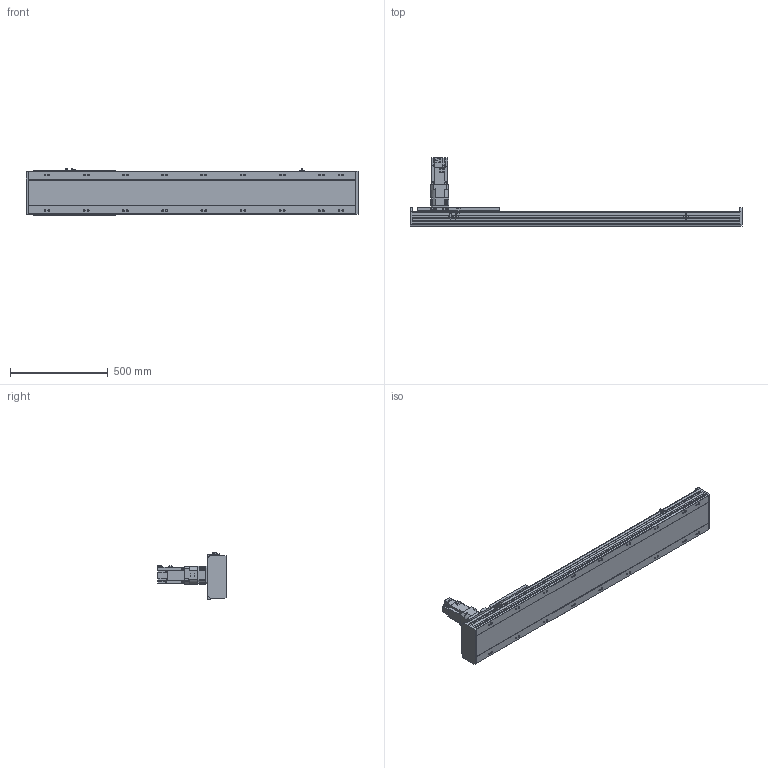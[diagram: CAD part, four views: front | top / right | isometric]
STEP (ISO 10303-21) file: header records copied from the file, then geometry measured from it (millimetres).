
FILE_DESCRIPTION(/* description */ ('STEP AP214'),/* implementation_level */ '2;1');
FILE_NAME(/* name */ 'SHS22A-L13-S1200-BC-T75-C1-N(0)',/* time_stamp */ '2022-06-15T02:26:14+02:00',/* author */ ('License CC BY-ND 4.0'),/* organization */ ('CADENAS'),/* preprocessor_version */ 'ST-DEVELOPER v18.102',/* originating_system */ 'PARTsolutions',/* authorisation */ ' ');
FILE_SCHEMA (('AUTOMOTIVE_DESIGN {1 0 10303 214 3 1 1}'));
Length unit declared in the file: millimetre
Products named in the file (7): SHS22A-L13-S1200-BC-T75-C1-N(0); PSC140-sensor; SHS22A-S1200_body2; T75-p1; SHS22A-S1200_body3; SHS22A-S1200_slider; SHS22A-L13-S1200-BC-T75-C1(0)_body
Assembly tree (13 placements, depth 2):
  SHS22A-L13-S1200-BC-T75-C1-N(0)
    PSC140-sensor  x3
    SHS22A-S1200_body2  x6
    T75-p1
    SHS22A-S1200_body3
    SHS22A-S1200_slider
    SHS22A-L13-S1200-BC-T75-C1(0)_body
Bounding box: 1694 x 350.8 x 238.4 mm (x, y, z)
Volume: 20363703.8 mm3; surface area: 2181505.9 mm2
Topology: 13 solids, 13 shells, 1809 faces, 4667 edges, 3058 vertices
Faces by surface type: plane 1316, cylinder 401, cone 83, torus 9
Full cylindrical faces by diameter (mm): 2.8 x3, 4.2 x2, 4.6 x3, 4.917 x4, 5 x4, 5.6 x24, 6 x31, 6.6 x24, 6.647 x8, 6.8 x9, 7.75 x6, 8 x3, 8.376 x18, 8.5 x18, 10 x4, 11 x4, 12 x24, 14 x18, 22 x1, 24.1 x1, 28 x1, 28.2 x1, 28.8 x1, 48.542 x1, 68 x1, 70 x1, 78 x1, 80 x2
Entity records: 29410 total; most frequent: CARTESIAN_POINT 5207, DIRECTION 4973, ORIENTED_EDGE 4584, EDGE_CURVE 2292, AXIS2_PLACEMENT_3D 1706, VERTEX_POINT 1630, LINE 1561, VECTOR 1561
